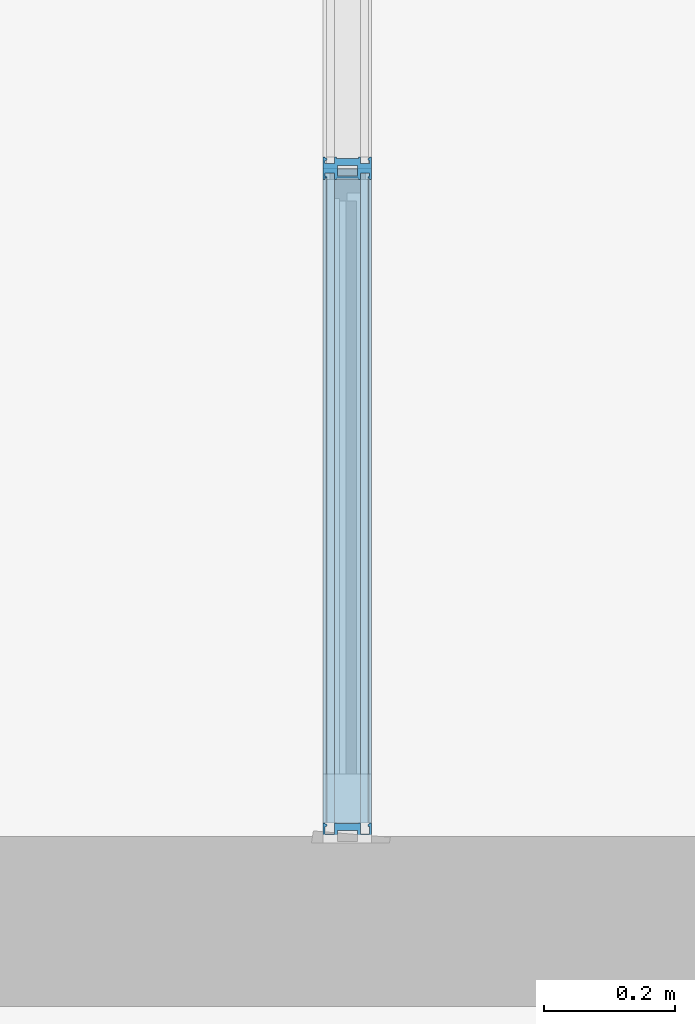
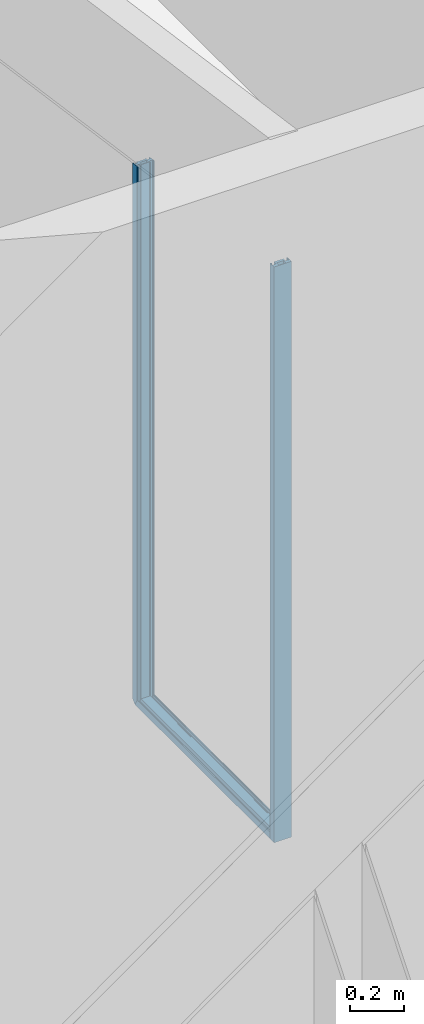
# One storey, part 69 of 246: 3 members, 1 element without a shape of its own.
"""IFC2X3 building model written with IfcOpenShell, lengths in millimetres."""

from ifc_helpers import new_model, entity, si_unit, converted_unit, derived_unit, money_unit, direction, frame, origin_with_axes, place, context, subcontext, project, spatial, faceted_brep, material, material_list, type_object, element, aggregate, save


model = new_model("IFC2X3")

# Units and contexts
model_context = context("Model", 3, precision=0.01, world=origin_with_axes(), true_north=direction((0.0, 1.0)))
body_context = subcontext(model_context, "Body", "Model", "MODEL_VIEW")
ifc_project = project(units=[si_unit("LENGTHUNIT", "METRE", prefix="MILLI"), si_unit("AREAUNIT", "SQUARE_METRE"), si_unit("VOLUMEUNIT", "CUBIC_METRE"), converted_unit("PLANEANGLEUNIT", "DEGREE", entity("IfcPlaneAngleMeasure", 0.0174532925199), si_unit("PLANEANGLEUNIT", "RADIAN"), dimensions=[0, 0, 0, 0, 0, 0, 0]), si_unit("SOLIDANGLEUNIT", "STERADIAN"), money_unit("EUR"), converted_unit("TIMEUNIT", "Year", entity("IfcTimeMeasure", 31556926.0), si_unit("TIMEUNIT", "SECOND"), dimensions=[0, 0, 1, 0, 0, 0, 0]), si_unit("MASSUNIT", "GRAM", prefix="KILO"), si_unit("THERMODYNAMICTEMPERATUREUNIT", "DEGREE_CELSIUS"), si_unit("LUMINOUSINTENSITYUNIT", "LUMEN"), si_unit("ENERGYUNIT", "JOULE", prefix="MEGA"), derived_unit("THERMALCONDUCTANCEUNIT", [(si_unit("POWERUNIT", "WATT"), 1), (si_unit("LENGTHUNIT", "METRE"), -1), (si_unit("THERMODYNAMICTEMPERATUREUNIT", "KELVIN"), -1)]), derived_unit("SPECIFICHEATCAPACITYUNIT", [(si_unit("ENERGYUNIT", "JOULE"), 1), (si_unit("MASSUNIT", "GRAM", prefix="KILO"), -1), (si_unit("THERMODYNAMICTEMPERATUREUNIT", "KELVIN"), -1)]), derived_unit("MASSDENSITYUNIT", [(si_unit("MASSUNIT", "GRAM", prefix="KILO"), 1), (si_unit("VOLUMEUNIT", "CUBIC_METRE"), -1)])], contexts=[model_context])

# Site, building, storey
site_placement = place(None, origin_with_axes())
site = spatial("IfcSite", under=ifc_project, at=site_placement, Name="L.Koidula tn 11b", CompositionType="ELEMENT")
building_placement = place(site_placement, origin_with_axes())
building = spatial("IfcBuilding", under=site, at=building_placement, Name="Rakvere Riigigümnaasium", CompositionType="ELEMENT")
storey_placement = place(building_placement, origin_with_axes())
storey = spatial("IfcBuildingStorey", under=building, at=storey_placement, Name="1.korrus 0,00", CompositionType="ELEMENT", Elevation=0.0)

# Curtain wall, members
curtain_wall_type = type_object("IfcCurtainWallType", Name="Curtain Wall Type", PredefinedType="NOTDEFINED")
curtain_wall_placement = place(storey_placement, frame((32835.0202258, 67589.2016838, 0.0), z_axis=(0.0, 0.0, 1.0), x_axis=(1.0, 0.0, 0.0)))
curtain_wall = element("IfcCurtainWall", 1, at=curtain_wall_placement, inside=storey, type_object=curtain_wall_type, Name="SKLF-02")
ifc_material_1 = material(Name="Klaasvill")
ifc_material_2 = material(Name="Teras RAL7012")
ifc_material_list = material_list([ifc_material_1, ifc_material_2])
member_type_1 = type_object("IfcMemberType", Name="Siseklaasfassaad-Servaprofiil-Doubleline30 30 x 42", PredefinedType="MULLION")
member_1_placement = place(curtain_wall_placement, frame((0.0, -4968.75, 2400.0), z_axis=(0.0, -1.0, 0.0), x_axis=(0.0, 0.0, 1.0)))
member_1 = element("IfcMember", 2, at=member_1_placement, type_object=member_type_1, material=ifc_material_list, Name="Frame-Siseklaasf-160", ObjectType="MULLION", context=body_context, shape_type="Brep", body=[
    faceted_brep([(13.8499999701, 15.000000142, 7.84833717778), (13.8499999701, 15.000000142, 999.999980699), (7.49999990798, 15.000000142, 999.999980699), (7.49999990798, 15.000000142, 4.25000203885), (13.8499999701, 29.0161444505, 7.84833717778), (13.8499999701, 29.0161444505, 999.999980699), (7.49999990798, 29.0161444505, 999.999980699), (7.49999990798, 29.0161444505, 4.25000203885)], [[[0, 1, 2, 3]], [[4, 5, 1, 0]], [[2, 1, 5, 6]], [[3, 2, 6, 7]], [[3, 7, 4, 0]], [[7, 6, 5, 4]]]),
    faceted_brep([(25.004489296, 27.0307503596, 14.1692175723), (25.004489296, 27.0307503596, 999.999980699), (24.987414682, 29.0161444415, 999.999980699), (24.987414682, 29.0161444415, 14.159541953), (25.742237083, 26.2930025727, 14.5872748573), (25.742237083, 26.2930025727, 999.999980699), (26.7500193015, 26.0229681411, 999.999980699), (27.75780152, 26.2930025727, 999.999980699), (28.4955493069, 27.0307503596, 999.999980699), (28.7655837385, 28.0385325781, 999.999980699), (28.5126239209, 29.0161444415, 999.999980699), (28.5126239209, 29.0161444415, 16.1571615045), (28.7655837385, 28.0385325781, 16.3005054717), (28.4955493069, 27.0307503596, 16.1474858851), (27.75780152, 26.2930025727, 15.7294286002), (26.7500193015, 26.0229681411, 15.1583517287)], [[[0, 1, 2, 3]], [[4, 5, 1, 0]], [[2, 1, 5, 6, 7, 8, 9, 10]], [[3, 2, 10, 11]], [[3, 11, 12, 13, 14, 15, 4, 0]], [[15, 6, 5, 4]], [[14, 7, 6, 15]], [[13, 8, 7, 14]], [[12, 9, 8, 13]], [[11, 10, 9, 12]]]),
    faceted_brep([(7.49999990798, -39.0161445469, 4.25000203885), (7.49999990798, -39.0161445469, 999.999980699), (7.49999990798, -24.9999997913, 999.999980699), (7.49999990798, -24.9999997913, 4.25000203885), (13.8499999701, -39.0161445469, 7.84833717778), (13.8499999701, -39.0161445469, 999.999980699), (13.8499999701, -24.9999997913, 999.999980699), (13.8499999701, -24.9999997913, 7.84833717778)], [[[0, 1, 2, 3]], [[4, 5, 1, 0]], [[2, 1, 5, 6]], [[3, 2, 6, 7]], [[3, 7, 4, 0]], [[7, 6, 5, 4]]]),
    faceted_brep([(24.987414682, -39.0161444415, 14.159541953), (24.987414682, -39.0161444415, 999.999980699), (25.004489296, -37.0307503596, 999.999980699), (25.004489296, -37.0307503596, 14.1692175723), (28.5126239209, -39.0161444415, 16.1571615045), (28.5126239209, -39.0161444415, 999.999980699), (28.7655837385, -38.0385325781, 999.999980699), (28.4955493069, -37.0307503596, 999.999980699), (27.75780152, -36.2930025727, 999.999980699), (26.7500193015, -36.0229681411, 999.999980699), (25.742237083, -36.2930025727, 999.999980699), (25.742237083, -36.2930025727, 14.5872748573), (26.7500193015, -36.0229681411, 15.1583517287), (27.75780152, -36.2930025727, 15.7294286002), (28.4955493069, -37.0307503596, 16.1474858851), (28.7655837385, -38.0385325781, 16.3005054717)], [[[0, 1, 2, 3]], [[4, 5, 1, 0]], [[2, 1, 5, 6, 7, 8, 9, 10]], [[3, 2, 10, 11]], [[3, 11, 12, 13, 14, 15, 4, 0]], [[15, 6, 5, 4]], [[14, 7, 6, 15]], [[13, 8, 7, 14]], [[12, 9, 8, 13]], [[11, 10, 9, 12]]]),
    faceted_brep([(29.5999996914, -22.0000000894, 16.7733414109), (29.5999996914, -22.0000000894, 999.999980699), (0.0, -22.0000000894, 999.999980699), (0.0, -22.0000000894, 0.0), (29.5999996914, 12.0000000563, 16.7733414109), (29.5999996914, 12.0000000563, 999.999980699), (0.0, 12.0000000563, 999.999980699), (1.9999999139, 10.0000001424, 999.999980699), (18.7999996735, 10.0000001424, 999.999980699), (18.7999996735, -20.0000001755, 999.999980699), (1.9999999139, -20.0000001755, 999.999980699), (0.0, 12.0000000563, 0.0), (1.9999999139, 10.0000001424, 1.13333384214), (1.9999999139, -20.0000001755, 1.13333384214), (18.7999996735, -20.0000001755, 10.6533383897), (18.7999996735, 10.0000001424, 10.6533383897)], [[[0, 1, 2, 3]], [[4, 5, 1, 0]], [[2, 1, 5, 6], [7, 8, 9, 10]], [[3, 2, 6, 11]], [[3, 11, 4, 0], [12, 13, 14, 15]], [[11, 6, 5, 4]], [[15, 8, 7, 12]], [[14, 9, 8, 15]], [[13, 10, 9, 14]], [[12, 7, 10, 13]]]),
    faceted_brep([(29.5999996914, 12.0000000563, 16.7733414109), (29.5999996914, 12.0000000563, 999.999980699), (0.0, 12.0, 999.999980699), (0.0, 12.0, 0.0), (30.0000193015, 12.0, 17.0000193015), (30.0000193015, 12.0, 999.999980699), (30.0000193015, 15.0, 999.999980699), (13.8499999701, 15.000000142, 999.999980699), (7.49999999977, 15.0, 999.999980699), (7.49999999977, 29.0161444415, 999.999980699), (13.8499999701, 29.0161444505, 999.999980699), (24.987414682, 29.0161444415, 999.999980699), (28.5126239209, 29.0161444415, 999.999980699), (30.0000193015, 29.0161444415, 999.999980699), (30.0000193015, 32.0, 999.999980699), (0.0, 32.0, 999.999980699), (0.0, 32.0, 0.0), (30.0000193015, 32.0, 17.0000193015), (30.0000193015, 29.0161444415, 17.0000193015), (28.5126239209, 29.0161444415, 16.1571615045), (24.987414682, 29.0161444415, 14.159541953), (13.8499999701, 29.0161444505, 7.84833717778), (7.49999999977, 29.0161444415, 4.25000209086), (7.49999999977, 15.0, 4.25000209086), (13.8499999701, 15.000000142, 7.84833717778), (30.0000193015, 15.0, 17.0000193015)], [[[0, 1, 2, 3]], [[4, 5, 1, 0]], [[2, 1, 5, 6, 7, 8, 9, 10, 11, 12, 13, 14, 15]], [[3, 2, 15, 16]], [[3, 16, 17, 18, 19, 20, 21, 22, 23, 24, 25, 4, 0]], [[25, 6, 5, 4]], [[24, 7, 6, 25]], [[23, 8, 7, 24]], [[22, 9, 8, 23]], [[21, 10, 9, 22]], [[20, 11, 10, 21]], [[19, 12, 11, 20]], [[18, 13, 12, 19]], [[17, 14, 13, 18]], [[16, 15, 14, 17]]]),
    faceted_brep([(0.0, -42.0, 0.0), (0.0, -42.0, 999.999980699), (0.0, -22.0, 999.999980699), (0.0, -22.0, 0.0), (30.0000193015, -42.0, 17.0000193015), (30.0000193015, -42.0, 999.999980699), (30.0000193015, -39.0161444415, 999.999980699), (28.5126239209, -39.0161444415, 999.999980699), (24.987414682, -39.0161444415, 999.999980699), (13.8499999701, -39.0161445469, 999.999980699), (7.49999999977, -39.0161444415, 999.999980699), (7.49999999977, -25.0, 999.999980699), (13.8499999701, -24.9999997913, 999.999980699), (30.0000193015, -25.0, 999.999980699), (30.0000193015, -22.0, 999.999980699), (29.5999996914, -22.0000000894, 999.999980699), (29.5999996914, -22.0000000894, 16.7733414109), (30.0000193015, -22.0, 17.0000193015), (30.0000193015, -25.0, 17.0000193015), (13.8499999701, -24.9999997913, 7.84833717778), (7.49999999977, -25.0, 4.25000209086), (7.49999999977, -39.0161444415, 4.25000209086), (13.8499999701, -39.0161445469, 7.84833717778), (24.987414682, -39.0161444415, 14.159541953), (28.5126239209, -39.0161444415, 16.1571615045), (30.0000193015, -39.0161444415, 17.0000193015)], [[[0, 1, 2, 3]], [[4, 5, 1, 0]], [[2, 1, 5, 6, 7, 8, 9, 10, 11, 12, 13, 14, 15]], [[3, 2, 15, 16]], [[3, 16, 17, 18, 19, 20, 21, 22, 23, 24, 25, 4, 0]], [[25, 6, 5, 4]], [[24, 7, 6, 25]], [[23, 8, 7, 24]], [[22, 9, 8, 23]], [[21, 10, 9, 22]], [[20, 11, 10, 21]], [[19, 12, 11, 20]], [[18, 13, 12, 19]], [[17, 14, 13, 18]], [[16, 15, 14, 17]]]),
])
member_type_2 = type_object("IfcMemberType", Name="Boundary Frame 30 x 42", PredefinedType="MULLION")
member_2_placement = place(curtain_wall_placement, frame((0.0, -5998.75, 2400.0), z_axis=(0.0, 0.0, 1.0), x_axis=(0.0, 1.0, 0.0)))
member_2 = element("IfcMember", 3, at=member_2_placement, type_object=member_type_2, material=ifc_material_list, Name="SKLF-10-raam", ObjectType="MULLION", context=body_context, shape_type="Brep", body=[
    faceted_brep([(7.49999990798, 15.000000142, 0.0), (13.8499999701, 15.000000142, 0.0), (13.8499999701, 15.000000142, 2600.0), (7.49999990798, 15.000000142, 2600.0), (7.49999990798, 29.0161444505, 0.0), (13.8499999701, 29.0161444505, 0.0), (13.8499999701, 29.0161444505, 2600.0), (7.49999990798, 29.0161444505, 2600.0)], [[[0, 1, 2, 3]], [[0, 4, 5, 1]], [[1, 5, 6, 2]], [[3, 2, 6, 7]], [[4, 0, 3, 7]], [[5, 4, 7, 6]]]),
    faceted_brep([(24.987414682, 29.0161444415, 0.0), (25.004489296, 27.0307503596, 0.0), (25.004489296, 27.0307503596, 2600.0), (24.987414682, 29.0161444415, 2600.0), (28.5126239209, 29.0161444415, 0.0), (28.7655837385, 28.0385325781, 0.0), (28.4955493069, 27.0307503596, 0.0), (27.75780152, 26.2930025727, 0.0), (26.7500193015, 26.0229681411, 0.0), (25.742237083, 26.2930025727, 0.0), (25.742237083, 26.2930025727, 2600.0), (26.7500193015, 26.0229681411, 2600.0), (27.75780152, 26.2930025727, 2600.0), (28.4955493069, 27.0307503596, 2600.0), (28.7655837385, 28.0385325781, 2600.0), (28.5126239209, 29.0161444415, 2600.0)], [[[0, 1, 2, 3]], [[0, 4, 5, 6, 7, 8, 9, 1]], [[1, 9, 10, 2]], [[3, 2, 10, 11, 12, 13, 14, 15]], [[4, 0, 3, 15]], [[5, 4, 15, 14]], [[6, 5, 14, 13]], [[7, 6, 13, 12]], [[8, 7, 12, 11]], [[9, 8, 11, 10]]]),
    faceted_brep([(7.49999990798, -24.9999997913, 0.0), (7.49999990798, -39.0161445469, 0.0), (7.49999990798, -39.0161445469, 2600.0), (7.49999990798, -24.9999997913, 2600.0), (13.8499999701, -24.9999997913, 0.0), (13.8499999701, -39.0161445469, 0.0), (13.8499999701, -39.0161445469, 2600.0), (13.8499999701, -24.9999997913, 2600.0)], [[[0, 1, 2, 3]], [[0, 4, 5, 1]], [[1, 5, 6, 2]], [[3, 2, 6, 7]], [[4, 0, 3, 7]], [[5, 4, 7, 6]]]),
    faceted_brep([(25.004489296, -37.0307503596, 0.0), (24.987414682, -39.0161444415, 0.0), (24.987414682, -39.0161444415, 2600.0), (25.004489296, -37.0307503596, 2600.0), (25.742237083, -36.2930025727, 0.0), (26.7500193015, -36.0229681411, 0.0), (27.75780152, -36.2930025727, 0.0), (28.4955493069, -37.0307503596, 0.0), (28.7655837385, -38.0385325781, 0.0), (28.5126239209, -39.0161444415, 0.0), (28.5126239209, -39.0161444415, 2600.0), (28.7655837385, -38.0385325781, 2600.0), (28.4955493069, -37.0307503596, 2600.0), (27.75780152, -36.2930025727, 2600.0), (26.7500193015, -36.0229681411, 2600.0), (25.742237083, -36.2930025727, 2600.0)], [[[0, 1, 2, 3]], [[0, 4, 5, 6, 7, 8, 9, 1]], [[1, 9, 10, 2]], [[3, 2, 10, 11, 12, 13, 14, 15]], [[4, 0, 3, 15]], [[5, 4, 15, 14]], [[6, 5, 14, 13]], [[7, 6, 13, 12]], [[8, 7, 12, 11]], [[9, 8, 11, 10]]]),
    faceted_brep([(0.0, -22.0000000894, 0.0), (29.5999996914, -22.0000000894, 0.0), (29.5999996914, -22.0000000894, 2600.0), (0.0, -22.0000000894, 2600.0), (0.0, 12.0000000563, 0.0), (29.5999996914, 12.0000000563, 0.0), (1.9999999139, 10.0000001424, 0.0), (1.9999999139, -20.0000001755, 0.0), (18.7999996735, -20.0000001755, 0.0), (18.7999996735, 10.0000001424, 0.0), (29.5999996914, 12.0000000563, 2600.0), (0.0, 12.0000000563, 2600.0), (1.9999999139, 10.0000001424, 2600.0), (18.7999996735, 10.0000001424, 2600.0), (18.7999996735, -20.0000001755, 2600.0), (1.9999999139, -20.0000001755, 2600.0)], [[[0, 1, 2, 3]], [[0, 4, 5, 1], [6, 7, 8, 9]], [[1, 5, 10, 2]], [[3, 2, 10, 11], [12, 13, 14, 15]], [[4, 0, 3, 11]], [[5, 4, 11, 10]], [[7, 6, 12, 15]], [[8, 7, 15, 14]], [[9, 8, 14, 13]], [[6, 9, 13, 12]]]),
    faceted_brep([(0.0, 12.0, 0.0), (29.5999996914, 12.0000000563, 0.0), (29.5999996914, 12.0000000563, 2600.0), (0.0, 12.0, 2600.0), (0.0, 32.0, 0.0), (30.0000193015, 32.0, 0.0), (30.0000193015, 29.0161444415, 0.0), (28.5126239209, 29.0161444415, 0.0), (24.987414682, 29.0161444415, 0.0), (13.8499999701, 29.0161444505, 0.0), (7.49999999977, 29.0161444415, 0.0), (7.49999999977, 15.0, 0.0), (13.8499999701, 15.000000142, 0.0), (30.0000193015, 15.0, 0.0), (30.0000193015, 12.0, 0.0), (30.0000193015, 12.0, 2600.0), (30.0000193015, 15.0, 2600.0), (13.8499999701, 15.000000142, 2600.0), (7.49999999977, 15.0, 2600.0), (7.49999999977, 29.0161444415, 2600.0), (13.8499999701, 29.0161444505, 2600.0), (24.987414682, 29.0161444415, 2600.0), (28.5126239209, 29.0161444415, 2600.0), (30.0000193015, 29.0161444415, 2600.0), (30.0000193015, 32.0, 2600.0), (0.0, 32.0, 2600.0)], [[[0, 1, 2, 3]], [[0, 4, 5, 6, 7, 8, 9, 10, 11, 12, 13, 14, 1]], [[1, 14, 15, 2]], [[3, 2, 15, 16, 17, 18, 19, 20, 21, 22, 23, 24, 25]], [[4, 0, 3, 25]], [[5, 4, 25, 24]], [[6, 5, 24, 23]], [[7, 6, 23, 22]], [[8, 7, 22, 21]], [[9, 8, 21, 20]], [[10, 9, 20, 19]], [[11, 10, 19, 18]], [[12, 11, 18, 17]], [[13, 12, 17, 16]], [[14, 13, 16, 15]]]),
    faceted_brep([(0.0, -22.0, 0.0), (0.0, -42.0, 0.0), (0.0, -42.0, 2600.0), (0.0, -22.0, 2600.0), (29.5999996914, -22.0000000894, 0.0), (30.0000193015, -22.0, 0.0), (30.0000193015, -25.0, 0.0), (13.8499999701, -24.9999997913, 0.0), (7.49999999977, -25.0, 0.0), (7.49999999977, -39.0161444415, 0.0), (13.8499999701, -39.0161445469, 0.0), (24.987414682, -39.0161444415, 0.0), (28.5126239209, -39.0161444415, 0.0), (30.0000193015, -39.0161444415, 0.0), (30.0000193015, -42.0, 0.0), (30.0000193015, -42.0, 2600.0), (30.0000193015, -39.0161444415, 2600.0), (28.5126239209, -39.0161444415, 2600.0), (24.987414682, -39.0161444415, 2600.0), (13.8499999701, -39.0161445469, 2600.0), (7.49999999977, -39.0161444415, 2600.0), (7.49999999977, -25.0, 2600.0), (13.8499999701, -24.9999997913, 2600.0), (30.0000193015, -25.0, 2600.0), (30.0000193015, -22.0, 2600.0), (29.5999996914, -22.0000000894, 2600.0)], [[[0, 1, 2, 3]], [[0, 4, 5, 6, 7, 8, 9, 10, 11, 12, 13, 14, 1]], [[1, 14, 15, 2]], [[3, 2, 15, 16, 17, 18, 19, 20, 21, 22, 23, 24, 25]], [[4, 0, 3, 25]], [[5, 4, 25, 24]], [[6, 5, 24, 23]], [[7, 6, 23, 22]], [[8, 7, 22, 21]], [[9, 8, 21, 20]], [[10, 9, 20, 19]], [[11, 10, 19, 18]], [[12, 11, 18, 17]], [[13, 12, 17, 16]], [[14, 13, 16, 15]]]),
])
member_type_3 = type_object("IfcMemberType", Name="Siseklaasfassaad-Vaheprofiil-Doubleline30 34 x 42", PredefinedType="MULLION")
member_3_placement = place(curtain_wall_placement, frame((0.0, -4968.75, 2400.0), z_axis=(0.0, 0.0, 1.0), x_axis=(0.0, 1.0, 0.0)))
member_3 = element("IfcMember", 4, at=member_3_placement, type_object=member_type_3, material=ifc_material_list, Name="Frame-Siseklaasf-244", ObjectType="MULLION", context=body_context, shape_type="Brep", body=[
    faceted_brep([(15.4955493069, 27.0307503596, 15.4955493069), (15.7655837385, 28.0385325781, 15.7655837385), (15.7655837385, 28.0385325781, 2435.82864835), (15.4955493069, 27.0307503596, 2435.86708893), (15.5126239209, 29.0161444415, 15.5126239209), (14.75780152, 26.2930025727, 14.75780152), (13.7500193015, 26.0229681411, 13.7500193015), (12.742237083, 26.2930025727, 12.742237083), (12.004489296, 27.0307503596, 12.004489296), (11.987414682, 29.0161444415, 11.987414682), (15.5126239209, 29.0161444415, 2435.86465829), (11.987414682, 29.0161444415, 2436.36648729), (12.004489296, 27.0307503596, 2436.36405664), (12.742237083, 26.2930025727, 2436.25903501), (13.7500193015, 26.0229681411, 2436.11557279), (14.75780152, 26.2930025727, 2435.97211057)], [[[0, 1, 2, 3]], [[4, 1, 0, 5, 6, 7, 8, 9]], [[1, 4, 10, 2]], [[3, 2, 10, 11, 12, 13, 14, 15]], [[5, 0, 3, 15]], [[6, 5, 15, 14]], [[7, 6, 14, 13]], [[8, 7, 13, 12]], [[9, 8, 12, 11]], [[4, 9, 11, 10]]]),
    faceted_brep([(11.987414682, -39.0161444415, 11.987414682), (15.5126239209, -39.0161444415, 15.5126239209), (15.5126239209, -39.0161444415, 2435.86465829), (11.987414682, -39.0161444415, 2436.36648729), (15.4955493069, -37.0307503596, 15.4955493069), (11.7344548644, -38.0385325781, 11.7344548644), (12.004489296, -37.0307503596, 12.004489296), (12.742237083, -36.2930025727, 12.742237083), (13.7500193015, -36.0229681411, 13.7500193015), (14.75780152, -36.2930025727, 14.75780152), (15.4955493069, -37.0307503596, 2435.86708893), (12.004489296, -37.0307503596, 2436.36405664), (11.7344548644, -38.0385325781, 2436.40249723), (14.75780152, -36.2930025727, 2435.97211057), (13.7500193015, -36.0229681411, 2436.11557279), (12.742237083, -36.2930025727, 2436.25903501)], [[[0, 1, 2, 3]], [[4, 1, 0, 5, 6, 7, 8, 9]], [[1, 4, 10, 2]], [[11, 12, 3, 2, 10, 13, 14, 15]], [[5, 0, 3, 12]], [[6, 5, 12, 11]], [[7, 6, 11, 15]], [[8, 7, 15, 14]], [[9, 8, 14, 13]], [[4, 9, 13, 10]]]),
    faceted_brep([(-12.004489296, 27.0307503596, 21.1843824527), (-11.7344548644, 28.0385325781, 20.7078513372), (-11.7344548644, 28.0385325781, 2439.74339949), (-12.004489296, 27.0307503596, 2439.78184008), (-11.987414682, 29.0161444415, 21.1542507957), (-12.742237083, 26.2930025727, 22.4862896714), (-13.7500193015, 26.0229681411, 24.2647280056), (-14.75780152, 26.2930025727, 26.0431663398), (-15.4955493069, 27.0307503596, 27.3450735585), (-15.7655837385, 28.0385325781, 27.8216046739), (-11.987414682, 29.0161444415, 2439.77940943), (-12.742237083, 26.2930025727, 2439.88686171), (-15.7655837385, 28.0385325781, 2440.31724837), (-15.4955493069, 27.0307503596, 2440.27880779), (-14.75780152, 26.2930025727, 2440.17378615), (-13.7500193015, 26.0229681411, 2440.03032393)], [[[0, 1, 2, 3]], [[4, 1, 0, 5, 6, 7, 8, 9]], [[1, 4, 10, 2]], [[11, 3, 2, 10, 12, 13, 14, 15]], [[5, 0, 3, 11]], [[6, 5, 11, 15]], [[7, 6, 15, 14]], [[8, 7, 14, 13]], [[9, 8, 13, 12]], [[4, 9, 12, 10]]]),
    faceted_brep([(-11.987414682, -39.0161444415, 21.1542507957), (-11.7344548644, -38.0385325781, 20.7078513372), (-11.7344548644, -38.0385325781, 2439.74339949), (-11.987414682, -39.0161444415, 2439.77940943), (-12.004489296, -37.0307503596, 21.1843824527), (-15.5126239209, -39.0161444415, 27.3752052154), (-15.4955493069, -37.0307503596, 27.3450735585), (-14.75780152, -36.2930025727, 26.0431663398), (-13.7500193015, -36.0229681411, 24.2647280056), (-12.742237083, -36.2930025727, 22.4862896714), (-12.004489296, -37.0307503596, 2439.78184008), (-12.742237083, -36.2930025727, 2439.88686171), (-13.7500193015, -36.0229681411, 2440.03032393), (-14.75780152, -36.2930025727, 2440.17378615), (-15.4955493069, -37.0307503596, 2440.27880779), (-15.5126239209, -39.0161444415, 2440.28123843)], [[[0, 1, 2, 3]], [[4, 1, 0, 5, 6, 7, 8, 9]], [[1, 4, 10, 2]], [[11, 12, 13, 14, 15, 3, 2, 10]], [[5, 0, 3, 15]], [[6, 5, 15, 14]], [[7, 6, 14, 13]], [[8, 7, 13, 12]], [[9, 8, 12, 11]], [[4, 9, 11, 10]]]),
    faceted_brep([(-12.8000002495, 10.0000001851, 22.588224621), (0.0, 10.0000001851, 0.0), (4.0000003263, 10.0000001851, 4.0000003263), (4.0000003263, 10.0000001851, 2437.50353077), (-12.8000002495, 10.0000001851, 2439.89508455), (-14.8000001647, 12.0000001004, 26.1176344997), (0.0, 12.0000001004, 0.0), (-12.8000002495, -20.0000001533, 22.588224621), (0.0, -20.0000001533, 0.0), (0.0, -22.0000000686, 0.0), (-14.8000001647, -22.0000000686, 26.1176344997), (14.8000003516, 12.0000001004, 14.8000003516), (14.8000003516, -22.0000000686, 14.8000003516), (4.0000003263, -20.0000001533, 4.0000003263), (4.0000003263, -20.0000001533, 2437.50353077), (14.8000003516, 12.0000001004, 2435.96610338), (-3.08905781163e-07, 12.0000001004, 2438.07294841), (-14.8000001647, 12.0000001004, 2440.17979332), (-14.8000001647, -22.0000000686, 2440.17979332), (-3.08905781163e-07, -22.0000000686, 2438.07294841), (14.8000003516, -22.0000000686, 2435.96610338), (-12.8000002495, -20.0000001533, 2439.89508455)], [[[0, 1, 2, 3, 4]], [[5, 6, 1, 0, 7, 8, 9, 10]], [[6, 11, 12, 9, 8, 13, 2, 1]], [[2, 13, 14, 3]], [[15, 16, 17, 18, 19, 20], [3, 14, 21, 4]], [[7, 0, 4, 21]], [[6, 5, 17, 16]], [[8, 7, 21, 14, 13]], [[10, 9, 19, 18]], [[5, 10, 18, 17]], [[11, 6, 16, 15]], [[12, 11, 15, 20]], [[9, 12, 20, 19]]]),
    faceted_brep([(17.0000193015, 29.0161446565, 17.0000193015), (17.0000193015, 32.0000000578, 17.0000193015), (17.0000193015, 32.0000000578, 2435.65292103), (17.0000193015, 29.0161446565, 2435.65292103), (0.0, 32.0000000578, 0.0), (15.5126239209, 29.0161444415, 15.5126239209), (11.987414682, 29.0161444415, 11.987414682), (7.50000002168, 29.0161446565, 7.50000002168), (7.50000002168, 15.0000000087, 7.50000002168), (17.0000193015, 15.0000000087, 17.0000193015), (17.0000193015, 12.0, 17.0000193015), (14.8000003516, 12.0000001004, 14.8000003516), (0.0, 12.0, 0.0), (0.0, 32.0000000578, 2438.07294836), (15.5126239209, 29.0161444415, 2435.86465829), (0.0, 12.0, 2438.07294836), (14.8000003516, 12.0000001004, 2435.96610338), (17.0000193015, 12.0, 2435.65292103), (17.0000193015, 15.0000000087, 2435.65292103), (7.50000002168, 15.0000000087, 2437.00529045), (7.50000002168, 29.0161446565, 2437.00529045), (11.987414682, 29.0161444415, 2436.36648729)], [[[0, 1, 2, 3]], [[4, 1, 0, 5, 6, 7, 8, 9, 10, 11, 12]], [[1, 4, 13, 2]], [[14, 3, 2, 13, 15, 16, 17, 18, 19, 20, 21]], [[5, 0, 3, 14]], [[6, 5, 14, 21]], [[7, 6, 21, 20]], [[8, 7, 20, 19]], [[9, 8, 19, 18]], [[10, 9, 18, 17]], [[11, 10, 17, 16]], [[12, 11, 16, 15]], [[4, 12, 15, 13]]]),
    faceted_brep([(17.0000193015, -24.9999999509, 17.0000193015), (17.0000193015, -21.9999999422, 17.0000193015), (17.0000193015, -21.9999999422, 2435.65292103), (17.0000193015, -24.9999999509, 2435.65292103), (14.8000003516, -22.0000000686, 14.8000003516), (7.50000002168, -24.9999999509, 7.50000002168), (7.50000002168, -39.0161445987, 7.50000002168), (11.987414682, -39.0161444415, 11.987414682), (15.5126239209, -39.0161444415, 15.5126239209), (17.0000193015, -39.0161445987, 17.0000193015), (17.0000193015, -42.0, 17.0000193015), (0.0, -42.0, 0.0), (0.0, -21.9999999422, 0.0), (14.8000003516, -22.0000000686, 2435.96610338), (0.0, -21.9999999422, 2438.07294836), (0.0, -42.0, 2438.07294836), (17.0000193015, -42.0, 2435.65292103), (17.0000193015, -39.0161445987, 2435.65292103), (15.5126239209, -39.0161444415, 2435.86465829), (11.987414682, -39.0161444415, 2436.36648729), (7.50000002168, -39.0161445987, 2437.00529045), (7.50000002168, -24.9999999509, 2437.00529045)], [[[0, 1, 2, 3]], [[4, 1, 0, 5, 6, 7, 8, 9, 10, 11, 12]], [[1, 4, 13, 2]], [[3, 2, 13, 14, 15, 16, 17, 18, 19, 20, 21]], [[5, 0, 3, 21]], [[6, 5, 21, 20]], [[7, 6, 20, 19]], [[8, 7, 19, 18]], [[9, 8, 18, 17]], [[10, 9, 17, 16]], [[11, 10, 16, 15]], [[12, 11, 15, 14]], [[4, 12, 14, 13]]]),
    faceted_brep([(0.0, 12.0, 0.0), (0.0, 32.0, 0.0), (0.0, 32.0, 2438.07294836), (0.0, 12.0, 2438.07294836), (-17.0000193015, 32.0, 30.0000193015), (-14.8000001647, 12.0000001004, 26.1176344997), (-17.0000193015, 12.0, 30.0000193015), (-17.0000193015, 15.0, 30.0000193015), (-7.49999999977, 15.0, 13.2352876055), (-7.49999999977, 29.0161444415, 13.2352876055), (-11.987414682, 29.0161444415, 21.1542507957), (-15.5126239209, 29.0161444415, 27.3752052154), (-17.0000193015, 29.0161444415, 30.0000193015), (-17.0000193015, 32.0, 2440.49297569), (-17.0000193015, 15.0, 2440.49297569), (-17.0000193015, 12.0, 2440.49297569), (-14.8000001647, 12.0000001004, 2440.17979332), (-17.0000193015, 29.0161444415, 2440.49297569), (-15.5126239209, 29.0161444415, 2440.28123843), (-11.987414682, 29.0161444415, 2439.77940943), (-7.49999999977, 29.0161444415, 2439.14060627), (-7.49999999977, 15.0, 2439.14060627)], [[[0, 1, 2, 3]], [[4, 1, 0, 5, 6, 7, 8, 9, 10, 11, 12]], [[1, 4, 13, 2]], [[14, 15, 16, 3, 2, 13, 17, 18, 19, 20, 21]], [[5, 0, 3, 16]], [[6, 5, 16, 15]], [[7, 6, 15, 14]], [[8, 7, 14, 21]], [[9, 8, 21, 20]], [[10, 9, 20, 19]], [[11, 10, 19, 18]], [[12, 11, 18, 17]], [[4, 12, 17, 13]]]),
    faceted_brep([(0.0, -42.0, 0.0), (0.0, -22.0, 0.0), (0.0, -22.0, 2438.07294836), (0.0, -42.0, 2438.07294836), (-14.8000001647, -22.0000000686, 26.1176344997), (-17.0000193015, -42.0, 30.0000193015), (-17.0000193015, -39.0161444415, 30.0000193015), (-15.5126239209, -39.0161444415, 27.3752052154), (-11.987414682, -39.0161444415, 21.1542507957), (-7.49999999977, -39.0161444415, 13.2352876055), (-7.49999999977, -25.0, 13.2352876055), (-17.0000193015, -25.0, 30.0000193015), (-17.0000193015, -22.0, 30.0000193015), (-14.8000001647, -22.0000000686, 2440.17979332), (-17.0000193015, -39.0161444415, 2440.49297569), (-17.0000193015, -42.0, 2440.49297569), (-17.0000193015, -22.0, 2440.49297569), (-17.0000193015, -25.0, 2440.49297569), (-7.49999999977, -25.0, 2439.14060627), (-7.49999999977, -39.0161444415, 2439.14060627), (-11.987414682, -39.0161444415, 2439.77940943), (-15.5126239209, -39.0161444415, 2440.28123843)], [[[0, 1, 2, 3]], [[4, 1, 0, 5, 6, 7, 8, 9, 10, 11, 12]], [[1, 4, 13, 2]], [[14, 15, 3, 2, 13, 16, 17, 18, 19, 20, 21]], [[5, 0, 3, 15]], [[6, 5, 15, 14]], [[7, 6, 14, 21]], [[8, 7, 21, 20]], [[9, 8, 20, 19]], [[10, 9, 19, 18]], [[11, 10, 18, 17]], [[12, 11, 17, 16]], [[4, 12, 16, 13]]]),
])
aggregate(curtain_wall, [member_1, member_3, member_2])

save(model, "model.ifc")
